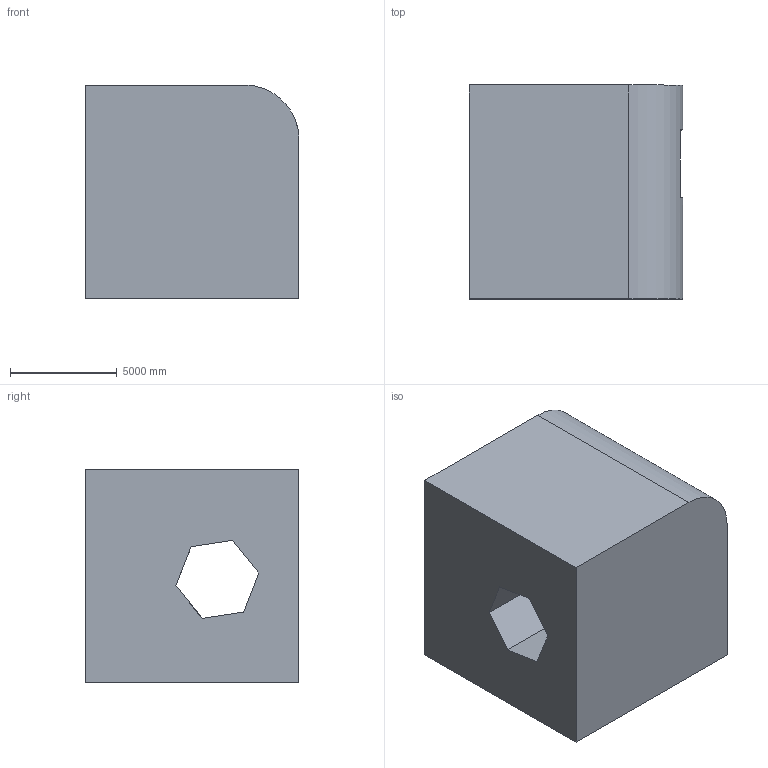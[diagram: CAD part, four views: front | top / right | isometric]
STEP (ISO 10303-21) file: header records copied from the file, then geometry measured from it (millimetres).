
FILE_DESCRIPTION (( 'STEP AP203' ), '1' );
FILE_NAME ('298.STEP', '2022-07-28T14:15:04', ( 'user' ), ( '' ), 'SwSTEP 2.0', 'SolidWorks 2021', '' );
FILE_SCHEMA (( 'CONFIG_CONTROL_DESIGN' ));
Length unit declared in the file: centimetre
Products named in the file (1): 298
Bounding box: 10000 x 10000 x 10000 mm (x, y, z)
Volume: 869999888235 mm3; surface area: 686772109.3 mm2
Topology: 1 solids, 1 shells, 19 faces, 54 edges, 36 vertices
Faces by surface type: plane 15, cylinder 4
Entity records: 725 total; most frequent: CARTESIAN_POINT 153, ORIENTED_EDGE 108, DIRECTION 95, EDGE_CURVE 54, LINE 43, VECTOR 43, VERTEX_POINT 36, AXIS2_PLACEMENT_3D 26
